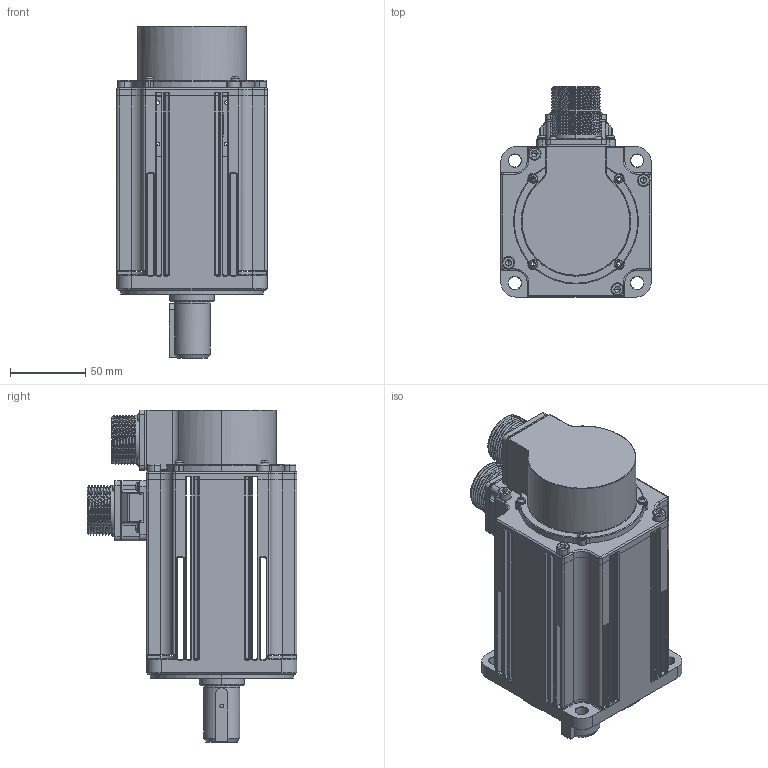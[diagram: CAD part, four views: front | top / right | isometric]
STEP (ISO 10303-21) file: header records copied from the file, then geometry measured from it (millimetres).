
FILE_DESCRIPTION (( 'STEP AP214' ), '1' );
FILE_NAME ('口100 2.0kW电机（雷赛）.STEP', '2024-09-18T07:52:39', ( '' ), ( '' ), 'SwSTEP 2.0', 'SolidWorks 2021', '' );
FILE_SCHEMA (( 'AUTOMOTIVE_DESIGN' ));
Length unit declared in the file: millimetre
Products named in the file (1): 口100 2.0kW电机（雷赛）
Bounding box: 100 x 139.5 x 220.7 mm (x, y, z)
Surface area: 131783.2 mm2 (no closed solid volume)
Topology: 0 solids, 69 shells, 1605 faces, 4434 edges, 2815 vertices
Faces by surface type: cylinder 668, plane 474, torus 331, sphere 65, cone 54, bspline 13
Entity records: 71304 total; most frequent: CARTESIAN_POINT 12694, DIRECTION 9561, ORIENTED_EDGE 7450, EDGE_CURVE 4370, AXIS2_PLACEMENT_3D 3804, VERTEX_POINT 2793, CIRCLE 2211, LINE 1953
